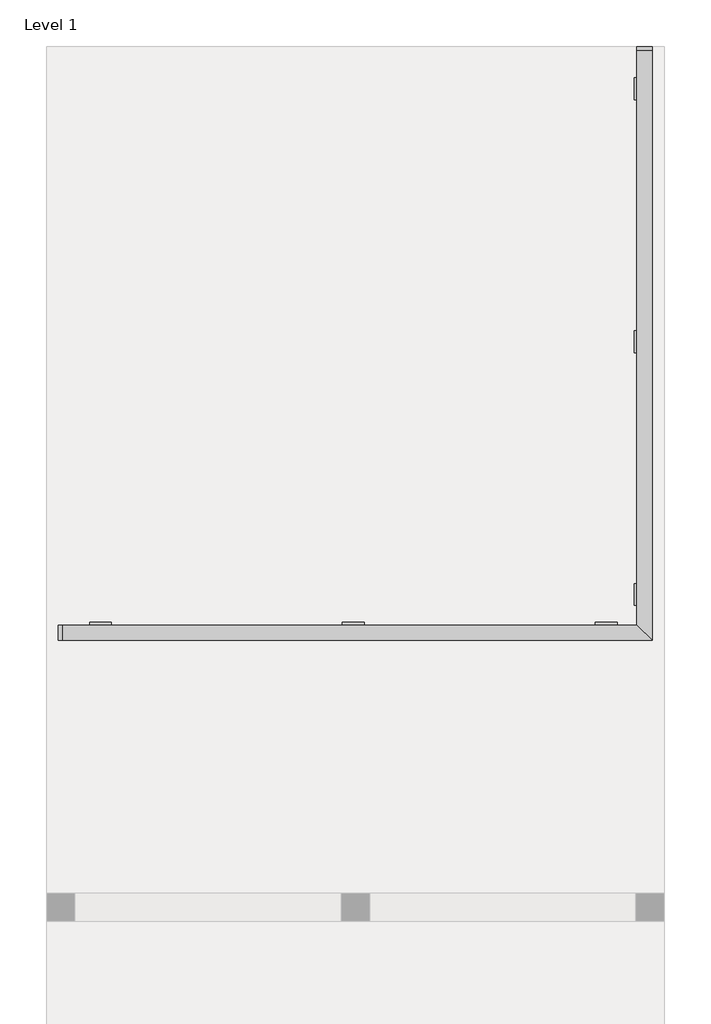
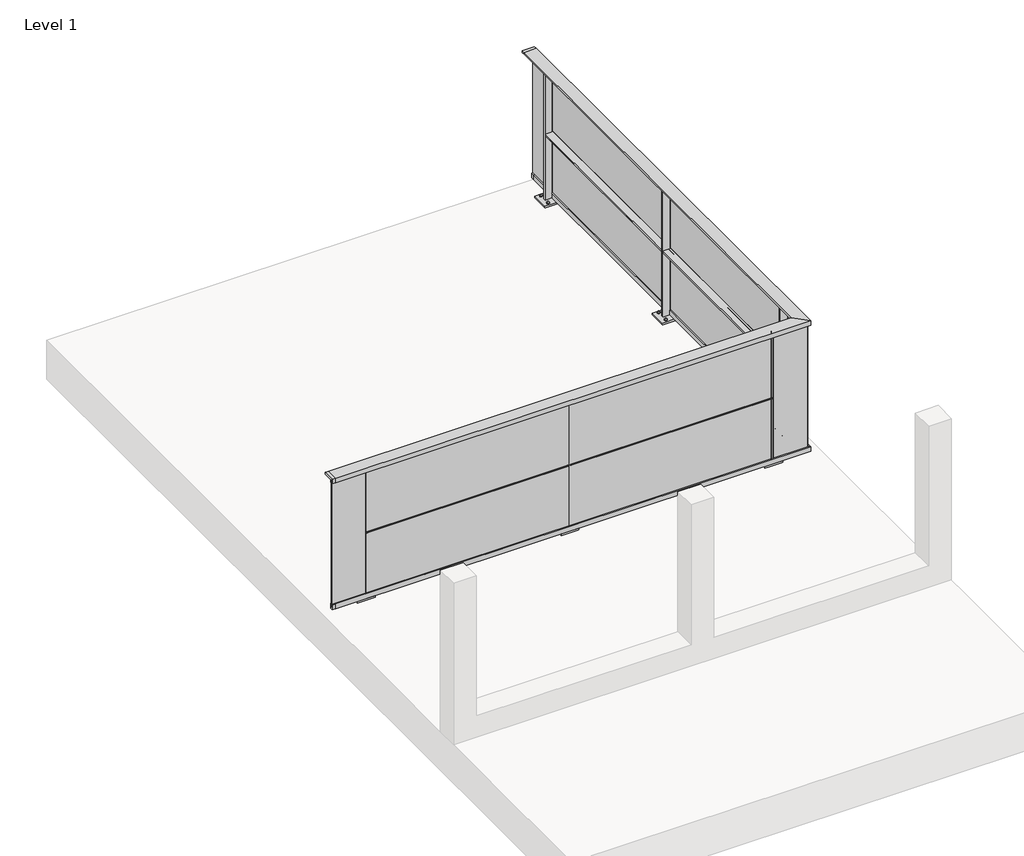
# One storey, part 2 of 2: 1 railing.
"""IFC4 building model written with IfcOpenShell, lengths in millimetres."""

from ifc_helpers import new_model, si_unit, point, frame, frame_2d, origin, origin_with_axes, place, context, project, spatial, polyline, circle_curve, ellipse_curve, trimmed, segment, composite_curve, outline, extrude, faceted_brep, element, save
from ifc_brep_helpers import plane_surface, revolved_surface, advanced_brep

model = new_model("IFC4")

# Units and contexts
model_context = context("Model", 3, world=origin())
ifc_project = project(units=[si_unit("LENGTHUNIT", "METRE", prefix="MILLI")], contexts=[model_context])

# Site, building, storey
site = spatial("IfcSite", under=ifc_project)
building = spatial("IfcBuilding", under=site)
storey = spatial("IfcBuildingStorey", under=building, Name="Level 1", Elevation=0.0)

# Railing
placement = place(None, origin())
element("IfcRailing", 1, ObjectType="Karactère Garde-Corps - Pose Sur Dalle", at=placement, inside=storey, context=model_context, shape_type="SolidModel", body=[
    faceted_brep([(-13856.6075858, 4901.5410088, 15.0), (-13856.6075858, 4921.5410088, 15.0), (-10381.0075858, 4921.5410088, 15.0), (-10361.0075858, 4901.5410088, 15.0), (-13856.6075858, 4901.5410088, 52.0), (-10361.0075858, 4901.5410088, 52.0), (-13856.6075858, 4910.0410088, 52.0), (-10369.5075858, 4910.0410088, 52.0), (-13856.6075858, 4913.0410088, 29.0), (-13856.6075858, 4910.0410088, 29.0), (-10369.5075858, 4910.0410088, 29.0), (-10372.5075858, 4913.0410088, 29.0), (-13856.6075858, 4921.5410088, 52.0), (-13856.6075858, 4913.0410088, 52.0), (-10372.5075858, 4913.0410088, 52.0), (-10381.0075858, 4921.5410088, 52.0), (-10381.0075858, 8397.1410088, 15.0), (-10361.0075858, 8397.1410088, 15.0), (-10361.0075858, 8397.1410088, 52.0), (-10369.5075858, 8397.1410088, 52.0), (-10369.5075858, 8397.1410088, 29.0), (-10372.5075858, 8397.1410088, 29.0), (-10372.5075858, 8397.1410088, 52.0), (-10381.0075858, 8397.1410088, 52.0), (-13881.6075858, 4921.5410088, 15.0), (-13881.6075858, 4901.5410088, 15.0), (-13881.6075858, 4901.5410088, 52.0), (-13881.6075858, 4910.0410088, 52.0), (-13881.6075858, 4910.0410088, 29.0), (-13881.6075858, 4913.0410088, 29.0), (-13881.6075858, 4913.0410088, 52.0), (-13881.6075858, 4921.5410088, 52.0), (-10381.0075858, 8422.1410088, 15.0), (-10381.0075858, 8422.1410088, 52.0), (-10372.5075858, 8422.1410088, 52.0), (-10372.5075858, 8422.1410088, 29.0), (-10369.5075858, 8422.1410088, 29.0), (-10369.5075858, 8422.1410088, 52.0), (-10361.0075858, 8422.1410088, 52.0), (-10361.0075858, 8422.1410088, 15.0)], [[[0, 1, 2, 3]], [[4, 0, 3, 5]], [[6, 4, 5, 7]], [[8, 9, 10, 11]], [[12, 13, 14, 15]], [[1, 12, 15, 2]], [[3, 2, 16, 17]], [[5, 3, 17, 18]], [[7, 5, 18, 19]], [[11, 10, 20, 21]], [[15, 14, 22, 23]], [[2, 15, 23, 16]], [[24, 25, 26, 27, 28, 29, 30, 31]], [[25, 24, 1, 0]], [[26, 25, 0, 4]], [[27, 26, 4, 6]], [[29, 28, 9, 8]], [[31, 30, 13, 12]], [[24, 31, 12, 1]], [[32, 33, 34, 35, 36, 37, 38, 39]], [[17, 16, 32, 39]], [[18, 17, 39, 38]], [[19, 18, 38, 37]], [[21, 20, 36, 35]], [[23, 22, 34, 33]], [[16, 23, 33, 32]], [[28, 27, 6, 9]], [[30, 29, 8, 13]], [[9, 6, 7, 10]], [[13, 8, 11, 14]], [[10, 7, 19, 20]], [[14, 11, 21, 22]], [[20, 19, 37, 36]], [[22, 21, 35, 34]]]),
    faceted_brep([(-13856.6075858, 4991.0410088, 1030.0), (-13856.6075858, 4901.0410088, 1030.0), (-10360.5075858, 4901.0410088, 1030.0), (-10450.5075858, 4991.0410088, 1030.0), (-13856.6075858, 4991.0410088, 1015.0), (-10450.5075858, 4991.0410088, 1015.0), (-13856.6075858, 4921.5410088, 1015.0), (-10381.0075858, 4921.5410088, 1015.0), (-13856.6075858, 4901.0410088, 996.0), (-10360.5075858, 4901.0410088, 996.0), (-13856.6075858, 4910.0410088, 996.0), (-10369.5075858, 4910.0410088, 996.0), (-13856.6075858, 4921.5410088, 996.0), (-10381.0075858, 4921.5410088, 996.0), (-13856.6075858, 4913.0410088, 996.0), (-10372.5075858, 4913.0410088, 996.0), (-13856.6075858, 4910.0410088, 1018.0), (-13856.6075858, 4913.0410088, 1018.0), (-10372.5075858, 4913.0410088, 1018.0), (-10369.5075858, 4910.0410088, 1018.0), (-10360.5075858, 8397.1410088, 1030.0), (-10450.5075858, 8397.1410088, 1030.0), (-10450.5075858, 8397.1410088, 1015.0), (-10381.0075858, 8397.1410088, 1015.0), (-10381.0075858, 8397.1410088, 996.0), (-10372.5075858, 8397.1410088, 996.0), (-10372.5075858, 8397.1410088, 1018.0), (-10369.5075858, 8397.1410088, 1018.0), (-10369.5075858, 8397.1410088, 996.0), (-10360.5075858, 8397.1410088, 996.0), (-13881.6075858, 4901.0410088, 1030.0), (-13881.6075858, 4991.0410088, 1030.0), (-13881.6075858, 4991.0410088, 1015.0), (-13881.6075858, 4921.5410088, 1015.0), (-13881.6075858, 4921.5410088, 996.0), (-13881.6075858, 4913.0410088, 996.0), (-13881.6075858, 4913.0410088, 1018.0), (-13881.6075858, 4910.0410088, 1018.0), (-13881.6075858, 4910.0410088, 996.0), (-13881.6075858, 4901.0410088, 996.0), (-10360.5075858, 8422.1410088, 1030.0), (-10360.5075858, 8422.1410088, 996.0), (-10369.5075858, 8422.1410088, 996.0), (-10369.5075858, 8422.1410088, 1018.0), (-10372.5075858, 8422.1410088, 1018.0), (-10372.5075858, 8422.1410088, 996.0), (-10381.0075858, 8422.1410088, 996.0), (-10381.0075858, 8422.1410088, 1015.0), (-10450.5075858, 8422.1410088, 1015.0), (-10450.5075858, 8422.1410088, 1030.0)], [[[0, 1, 2, 3]], [[4, 0, 3, 5]], [[6, 4, 5, 7]], [[1, 8, 9, 2]], [[8, 10, 11, 9]], [[12, 6, 7, 13]], [[14, 12, 13, 15]], [[16, 17, 18, 19]], [[3, 2, 20, 21]], [[5, 3, 21, 22]], [[7, 5, 22, 23]], [[13, 7, 23, 24]], [[15, 13, 24, 25]], [[19, 18, 26, 27]], [[9, 11, 28, 29]], [[2, 9, 29, 20]], [[30, 31, 32, 33, 34, 35, 36, 37, 38, 39]], [[31, 30, 1, 0]], [[32, 31, 0, 4]], [[33, 32, 4, 6]], [[34, 33, 6, 12]], [[35, 34, 12, 14]], [[37, 36, 17, 16]], [[39, 38, 10, 8]], [[30, 39, 8, 1]], [[40, 41, 42, 43, 44, 45, 46, 47, 48, 49]], [[21, 20, 40, 49]], [[22, 21, 49, 48]], [[23, 22, 48, 47]], [[24, 23, 47, 46]], [[25, 24, 46, 45]], [[27, 26, 44, 43]], [[29, 28, 42, 41]], [[20, 29, 41, 40]], [[36, 35, 14, 17]], [[38, 37, 16, 10]], [[17, 14, 15, 18]], [[10, 16, 19, 11]], [[18, 15, 25, 26]], [[11, 19, 27, 28]], [[26, 25, 45, 44]], [[28, 27, 43, 42]]]),
    extrude(outline(polyline([(-10369.4827757, 8172.1410088), (-10372.4827757, 8172.1410088), (-10372.4827757, 8422.1410088), (-10369.4827757, 8422.1410088), (-10369.4827757, 8172.1410088)])), frame((0.0, 0.0, 29.0), z_axis=(0.0, 0.0, 1.0), x_axis=(1.0, 0.0, 0.0)), (0.0, 0.0, 1.0), 967.0),
    extrude(outline(polyline([(-10369.4827757, 4922.1410088), (-10372.4827757, 4922.1410088), (-10372.4827757, 5172.1410088), (-10369.4827757, 5172.1410088), (-10369.4827757, 4922.1410088)])), frame((0.0, 0.0, 29.0), z_axis=(0.0, 0.0, 1.0), x_axis=(1.0, 0.0, 0.0)), (0.0, 0.0, 1.0), 967.0),
    advanced_brep(
    [(-10422.0163411, 8217.1410088, 20.0), (-10439.9988304, 8217.1410088, 20.0), (-10431.0075858, 8217.1410088, 20.0), (-10431.0075858, 8217.1410088, 28.9912446)],
    [
        (0, 1, circle_curve(frame((-10431.0075858, 8217.1410088, 20.0), z_axis=(0.0, 0.0, -1.0), x_axis=(-1.0, 0.0, 0.0)), 8.9912446)),
        (1, 2),
        (2, 0),
        (1, 0, circle_curve(frame((-10431.0075858, 8217.1410088, 20.0), z_axis=(0.0, 0.0, -1.0), x_axis=(-1.0, 0.0, 0.0)), 8.9912446)),
        (3, 1, circle_curve(frame((-10431.0075858, 8217.1410088, 20.0), z_axis=(0.0, -1.0, 0.0), x_axis=(1.0, 0.0, 0.0)), 8.9912446)),
        (0, 3, circle_curve(frame((-10431.0075858, 8217.1410088, 20.0), z_axis=(0.0, -1.0, 0.0), x_axis=(-1.0, 0.0, 0.0)), 8.9912446)),
    ],
    [
        plane_surface(frame((-10431.0075858, 8217.1410088, 20.0), z_axis=(0.0, 0.0, -1.0), x_axis=(-1.0, 0.0, 0.0))),
        revolved_surface(trimmed(ellipse_curve(frame((-10431.0075858, 8217.1410088, 20.0), z_axis=(0.0, 1.0, 0.0), x_axis=(1.0, 0.0, 0.0)), 8.9912446, 8.9912446), [point((-10439.9988304, 8217.1410088, 20.0))], [point((-10431.0075858, 8217.1410088, 28.9912446))], True, "CARTESIAN"), (-10431.0075858, 8217.1410088, 20.0), (0.0, 0.0, 1.0)),
    ],
    [
        (0, [[1, 2, 3]]),
        (0, [[4, -3, -2]]),
        (1, [[5, -1, 6]]),
        (1, [[-6, -4, -5]]),
    ],
),
    advanced_brep(
    [(-10431.0075858, 8127.1410088, 20.0), (-10439.9988304, 8127.1410088, 20.0), (-10422.0163411, 8127.1410088, 20.0), (-10431.0075858, 8127.1410088, 28.9912446)],
    [
        (0, 1),
        (1, 2, circle_curve(frame((-10431.0075858, 8127.1410088, 20.0), z_axis=(0.0, 0.0, -1.0), x_axis=(-1.0, 0.0, 0.0)), 8.9912446)),
        (2, 0),
        (2, 1, circle_curve(frame((-10431.0075858, 8127.1410088, 20.0), z_axis=(0.0, 0.0, -1.0), x_axis=(-1.0, 0.0, 0.0)), 8.9912446)),
        (1, 3, circle_curve(frame((-10431.0075858, 8127.1410088, 20.0), z_axis=(0.0, 1.0, 0.0), x_axis=(1.0, 0.0, 0.0)), 8.9912446)),
        (3, 2, circle_curve(frame((-10431.0075858, 8127.1410088, 20.0), z_axis=(0.0, 1.0, 0.0), x_axis=(-1.0, 0.0, 0.0)), 8.9912446)),
    ],
    [
        plane_surface(frame((-10431.0075858, 8127.1410088, 20.0), z_axis=(0.0, 0.0, -1.0), x_axis=(-1.0, 0.0, 0.0))),
        revolved_surface(trimmed(ellipse_curve(frame((-10431.0075858, 8127.1410088, 20.0), z_axis=(0.0, -1.0, 0.0), x_axis=(1.0, 0.0, 0.0)), 8.9912446, 8.9912446), [point((-10431.0075858, 8127.1410088, 28.9912446))], [point((-10439.9988304, 8127.1410088, 20.0))], True, "CARTESIAN"), (-10431.0075858, 8127.1410088, 20.0), (0.0, 0.0, -1.0)),
    ],
    [
        (0, [[1, 2, 3]]),
        (0, [[-3, 4, -1]]),
        (1, [[-2, 5, 6]]),
        (1, [[-4, -6, -5]]),
    ],
),
    extrude(outline(polyline([(-10438.1896667, 8119.9589279), (-10441.164582, 8127.1410088), (-10438.1896667, 8134.3230898), (-10431.0075858, 8137.2980051), (-10423.8255048, 8134.3230898), (-10420.8505895, 8127.1410088), (-10423.8255048, 8119.9589279), (-10431.0075858, 8116.9840126), (-10438.1896667, 8119.9589279)])), frame((0.0, 0.0, 15.0), z_axis=(0.0, 0.0, 1.0), x_axis=(1.0, 0.0, 0.0)), (0.0, 0.0, 1.0), 5.0),
    extrude(outline(polyline([(-10438.1896667, 8224.3230898), (-10431.0075858, 8227.2980051), (-10423.8255048, 8224.3230898), (-10420.8505895, 8217.1410088), (-10423.8255048, 8209.9589279), (-10431.0075858, 8206.9840126), (-10438.1896667, 8209.9589279), (-10441.164582, 8217.1410088), (-10438.1896667, 8224.3230898)])), frame((0.0, 0.0, 15.0), z_axis=(0.0, 0.0, 1.0), x_axis=(1.0, 0.0, 0.0)), (0.0, 0.0, 1.0), 5.0),
    extrude(outline(polyline([(-10361.0075858, 8237.1410088), (-10361.0075858, 8107.1410088), (-10466.0075858, 8107.1410088), (-10466.0075858, 8237.1410088), (-10361.0075858, 8237.1410088)])), origin_with_axes(), (0.0, 0.0, 1.0), 15.0),
    extrude(outline(polyline([(-10431.0075858, 8164.6410088), (-10431.0075858, 8179.6410088), (-10381.0075858, 8179.6410088), (-10381.0075858, 8164.6410088), (-10431.0075858, 8164.6410088)]), holes=[composite_curve([segment(trimmed(circle_curve(frame_2d((-10406.0075858, 8172.1410088)), 5.0234856), [point((-10400.9841001, 8172.1410088))], [point((-10411.0310714, 8172.1410088))], True, "CARTESIAN"), True, "CONTINUOUS"), segment(trimmed(circle_curve(frame_2d((-10406.0075858, 8172.1410088)), 5.0234856), [point((-10411.0310714, 8172.1410088))], [point((-10400.9841001, 8172.1410088))], True, "CARTESIAN"), True, "CONTINUOUS")], self_intersect=False)]), frame((0.0, 0.0, 15.0), z_axis=(0.0, 0.0, 1.0), x_axis=(1.0, 0.0, 0.0)), (0.0, 0.0, 1.0), 1000.0),
    extrude(outline(polyline([(-10372.4827757, 6672.1410088), (-10372.4827757, 8172.1410088), (-10369.4827757, 8172.1410088), (-10369.4827757, 6672.1410088), (-10372.4827757, 6672.1410088)])), frame((0.0, 0.0, 29.0), z_axis=(0.0, 0.0, 1.0), x_axis=(1.0, 0.0, 0.0)), (0.0, 0.0, 1.0), 989.0),
    extrude(outline(polyline([(529.5, -10372.5075858), (529.5, -10429.5075858), (514.5, -10429.5075858), (514.5, -10372.5075858), (529.5, -10372.5075858)]), holes=[polyline([(528.0, -10375.0075858), (516.0, -10375.0075858), (516.0, -10387.0075858), (528.0, -10387.0075858), (528.0, -10375.0075858)]), polyline([(528.0, -10428.0075858), (528.0, -10388.5075858), (516.0, -10388.5075858), (516.0, -10428.0075858), (528.0, -10428.0075858)])]), frame((0.0, 6679.6410088, 0.0), z_axis=(0.0, 1.0, 0.0), x_axis=(0.0, 0.0, 1.0)), (0.0, 0.0, 1.0), 1485.0),
    extrude(outline(composite_curve([segment(trimmed(circle_curve(frame_2d((514.4462257, -10365.5033461)), 4.7492839), [point((517.0, -10369.5075858))], [point((518.2420512, -10368.3577124))], True, "CARTESIAN"), True, "CONTINUOUS"), segment(trimmed(circle_curve(frame_2d((519.1606246, -10369.5966468)), 1.542315), [point((518.2420512, -10368.3577124))], [point((519.067921, -10368.0571204))], False, "CARTESIAN"), True, "CONTINUOUS"), segment(polyline([(519.067921, -10368.0571204), (524.932079, -10368.0571204)]), True, "CONTINUOUS"), segment(trimmed(circle_curve(frame_2d((524.8393754, -10369.5966468)), 1.542315), [point((524.932079, -10368.0571204))], [point((525.7579488, -10368.3577124))], False, "CARTESIAN"), True, "CONTINUOUS"), segment(trimmed(circle_curve(frame_2d((529.5537743, -10365.5033461)), 4.7492839), [point((525.7579488, -10368.3577124))], [point((527.0, -10369.5075858))], True, "CARTESIAN"), True, "CONTINUOUS"), segment(polyline([(527.0, -10369.5075858), (517.0, -10369.5075858)]), True, "CONTINUOUS")], self_intersect=False)), frame((0.0, 6679.6410088, 0.0), z_axis=(0.0, 1.0, 0.0), x_axis=(0.0, 0.0, 1.0)), (0.0, 0.0, 1.0), 1485.0),
    advanced_brep(
    [(-10422.0163411, 6717.1410088, 20.0), (-10439.9988304, 6717.1410088, 20.0), (-10431.0075858, 6717.1410088, 20.0), (-10431.0075858, 6717.1410088, 28.9912446)],
    [
        (0, 1, circle_curve(frame((-10431.0075858, 6717.1410088, 20.0), z_axis=(0.0, 0.0, -1.0), x_axis=(-1.0, 0.0, 0.0)), 8.9912446)),
        (1, 2),
        (2, 0),
        (1, 0, circle_curve(frame((-10431.0075858, 6717.1410088, 20.0), z_axis=(0.0, 0.0, -1.0), x_axis=(-1.0, 0.0, 0.0)), 8.9912446)),
        (3, 1, circle_curve(frame((-10431.0075858, 6717.1410088, 20.0), z_axis=(0.0, -1.0, 0.0), x_axis=(1.0, 0.0, 0.0)), 8.9912446)),
        (0, 3, circle_curve(frame((-10431.0075858, 6717.1410088, 20.0), z_axis=(0.0, -1.0, 0.0), x_axis=(-1.0, 0.0, 0.0)), 8.9912446)),
    ],
    [
        plane_surface(frame((-10431.0075858, 6717.1410088, 20.0), z_axis=(0.0, 0.0, -1.0), x_axis=(-1.0, 0.0, 0.0))),
        revolved_surface(trimmed(ellipse_curve(frame((-10431.0075858, 6717.1410088, 20.0), z_axis=(0.0, 1.0, 0.0), x_axis=(1.0, 0.0, 0.0)), 8.9912446, 8.9912446), [point((-10439.9988304, 6717.1410088, 20.0))], [point((-10431.0075858, 6717.1410088, 28.9912446))], True, "CARTESIAN"), (-10431.0075858, 6717.1410088, 20.0), (0.0, 0.0, 1.0)),
    ],
    [
        (0, [[1, 2, 3]]),
        (0, [[4, -3, -2]]),
        (1, [[5, -1, 6]]),
        (1, [[-6, -4, -5]]),
    ],
),
    advanced_brep(
    [(-10431.0075858, 6627.1410088, 20.0), (-10439.9988304, 6627.1410088, 20.0), (-10422.0163411, 6627.1410088, 20.0), (-10431.0075858, 6627.1410088, 28.9912446)],
    [
        (0, 1),
        (1, 2, circle_curve(frame((-10431.0075858, 6627.1410088, 20.0), z_axis=(0.0, 0.0, -1.0), x_axis=(-1.0, 0.0, 0.0)), 8.9912446)),
        (2, 0),
        (2, 1, circle_curve(frame((-10431.0075858, 6627.1410088, 20.0), z_axis=(0.0, 0.0, -1.0), x_axis=(-1.0, 0.0, 0.0)), 8.9912446)),
        (1, 3, circle_curve(frame((-10431.0075858, 6627.1410088, 20.0), z_axis=(0.0, 1.0, 0.0), x_axis=(1.0, 0.0, 0.0)), 8.9912446)),
        (3, 2, circle_curve(frame((-10431.0075858, 6627.1410088, 20.0), z_axis=(0.0, 1.0, 0.0), x_axis=(-1.0, 0.0, 0.0)), 8.9912446)),
    ],
    [
        plane_surface(frame((-10431.0075858, 6627.1410088, 20.0), z_axis=(0.0, 0.0, -1.0), x_axis=(-1.0, 0.0, 0.0))),
        revolved_surface(trimmed(ellipse_curve(frame((-10431.0075858, 6627.1410088, 20.0), z_axis=(0.0, -1.0, 0.0), x_axis=(1.0, 0.0, 0.0)), 8.9912446, 8.9912446), [point((-10431.0075858, 6627.1410088, 28.9912446))], [point((-10439.9988304, 6627.1410088, 20.0))], True, "CARTESIAN"), (-10431.0075858, 6627.1410088, 20.0), (0.0, 0.0, -1.0)),
    ],
    [
        (0, [[1, 2, 3]]),
        (0, [[-3, 4, -1]]),
        (1, [[-2, 5, 6]]),
        (1, [[-4, -6, -5]]),
    ],
),
    extrude(outline(polyline([(-10438.1896667, 6619.9589279), (-10441.164582, 6627.1410088), (-10438.1896667, 6634.3230898), (-10431.0075858, 6637.2980051), (-10423.8255048, 6634.3230898), (-10420.8505895, 6627.1410088), (-10423.8255048, 6619.9589279), (-10431.0075858, 6616.9840126), (-10438.1896667, 6619.9589279)])), frame((0.0, 0.0, 15.0), z_axis=(0.0, 0.0, 1.0), x_axis=(1.0, 0.0, 0.0)), (0.0, 0.0, 1.0), 5.0),
    extrude(outline(polyline([(-10438.1896667, 6724.3230898), (-10431.0075858, 6727.2980051), (-10423.8255048, 6724.3230898), (-10420.8505895, 6717.1410088), (-10423.8255048, 6709.9589279), (-10431.0075858, 6706.9840126), (-10438.1896667, 6709.9589279), (-10441.164582, 6717.1410088), (-10438.1896667, 6724.3230898)])), frame((0.0, 0.0, 15.0), z_axis=(0.0, 0.0, 1.0), x_axis=(1.0, 0.0, 0.0)), (0.0, 0.0, 1.0), 5.0),
    extrude(outline(polyline([(-10361.0075858, 6737.1410088), (-10361.0075858, 6607.1410088), (-10466.0075858, 6607.1410088), (-10466.0075858, 6737.1410088), (-10361.0075858, 6737.1410088)])), origin_with_axes(), (0.0, 0.0, 1.0), 15.0),
    extrude(outline(polyline([(-10431.0075858, 6664.6410088), (-10431.0075858, 6679.6410088), (-10381.0075858, 6679.6410088), (-10381.0075858, 6664.6410088), (-10431.0075858, 6664.6410088)]), holes=[composite_curve([segment(trimmed(circle_curve(frame_2d((-10406.0075858, 6672.1410088)), 5.0234856), [point((-10400.9841001, 6672.1410088))], [point((-10411.0310714, 6672.1410088))], True, "CARTESIAN"), True, "CONTINUOUS"), segment(trimmed(circle_curve(frame_2d((-10406.0075858, 6672.1410088)), 5.0234856), [point((-10411.0310714, 6672.1410088))], [point((-10400.9841001, 6672.1410088))], True, "CARTESIAN"), True, "CONTINUOUS")], self_intersect=False)]), frame((0.0, 0.0, 15.0), z_axis=(0.0, 0.0, 1.0), x_axis=(1.0, 0.0, 0.0)), (0.0, 0.0, 1.0), 1000.0),
    extrude(outline(polyline([(-10372.4827757, 5172.1410088), (-10372.4827757, 6672.1410088), (-10369.4827757, 6672.1410088), (-10369.4827757, 5172.1410088), (-10372.4827757, 5172.1410088)])), frame((0.0, 0.0, 29.0), z_axis=(0.0, 0.0, 1.0), x_axis=(1.0, 0.0, 0.0)), (0.0, 0.0, 1.0), 989.0),
    extrude(outline(polyline([(529.5, -10372.5075858), (529.5, -10429.5075858), (514.5, -10429.5075858), (514.5, -10372.5075858), (529.5, -10372.5075858)]), holes=[polyline([(528.0, -10375.0075858), (516.0, -10375.0075858), (516.0, -10387.0075858), (528.0, -10387.0075858), (528.0, -10375.0075858)]), polyline([(528.0, -10428.0075858), (528.0, -10388.5075858), (516.0, -10388.5075858), (516.0, -10428.0075858), (528.0, -10428.0075858)])]), frame((0.0, 5179.6410088, 0.0), z_axis=(0.0, 1.0, 0.0), x_axis=(0.0, 0.0, 1.0)), (0.0, 0.0, 1.0), 1485.0),
    extrude(outline(composite_curve([segment(trimmed(circle_curve(frame_2d((514.4462257, -10365.5033461)), 4.7492839), [point((517.0, -10369.5075858))], [point((518.2420512, -10368.3577124))], True, "CARTESIAN"), True, "CONTINUOUS"), segment(trimmed(circle_curve(frame_2d((519.1606246, -10369.5966468)), 1.542315), [point((518.2420512, -10368.3577124))], [point((519.067921, -10368.0571204))], False, "CARTESIAN"), True, "CONTINUOUS"), segment(polyline([(519.067921, -10368.0571204), (524.932079, -10368.0571204)]), True, "CONTINUOUS"), segment(trimmed(circle_curve(frame_2d((524.8393754, -10369.5966468)), 1.542315), [point((524.932079, -10368.0571204))], [point((525.7579488, -10368.3577124))], False, "CARTESIAN"), True, "CONTINUOUS"), segment(trimmed(circle_curve(frame_2d((529.5537743, -10365.5033461)), 4.7492839), [point((525.7579488, -10368.3577124))], [point((527.0, -10369.5075858))], True, "CARTESIAN"), True, "CONTINUOUS"), segment(polyline([(527.0, -10369.5075858), (517.0, -10369.5075858)]), True, "CONTINUOUS")], self_intersect=False)), frame((0.0, 5179.6410088, 0.0), z_axis=(0.0, 1.0, 0.0), x_axis=(0.0, 0.0, 1.0)), (0.0, 0.0, 1.0), 1485.0),
    advanced_brep(
    [(-10422.0163411, 5217.1410088, 20.0), (-10439.9988304, 5217.1410088, 20.0), (-10431.0075858, 5217.1410088, 20.0), (-10431.0075858, 5217.1410088, 28.9912446)],
    [
        (0, 1, circle_curve(frame((-10431.0075858, 5217.1410088, 20.0), z_axis=(0.0, 0.0, -1.0), x_axis=(-1.0, 0.0, 0.0)), 8.9912446)),
        (1, 2),
        (2, 0),
        (1, 0, circle_curve(frame((-10431.0075858, 5217.1410088, 20.0), z_axis=(0.0, 0.0, -1.0), x_axis=(-1.0, 0.0, 0.0)), 8.9912446)),
        (3, 1, circle_curve(frame((-10431.0075858, 5217.1410088, 20.0), z_axis=(0.0, -1.0, 0.0), x_axis=(1.0, 0.0, 0.0)), 8.9912446)),
        (0, 3, circle_curve(frame((-10431.0075858, 5217.1410088, 20.0), z_axis=(0.0, -1.0, 0.0), x_axis=(-1.0, 0.0, 0.0)), 8.9912446)),
    ],
    [
        plane_surface(frame((-10431.0075858, 5217.1410088, 20.0), z_axis=(0.0, 0.0, -1.0), x_axis=(-1.0, 0.0, 0.0))),
        revolved_surface(trimmed(ellipse_curve(frame((-10431.0075858, 5217.1410088, 20.0), z_axis=(0.0, 1.0, 0.0), x_axis=(1.0, 0.0, 0.0)), 8.9912446, 8.9912446), [point((-10439.9988304, 5217.1410088, 20.0))], [point((-10431.0075858, 5217.1410088, 28.9912446))], True, "CARTESIAN"), (-10431.0075858, 5217.1410088, 20.0), (0.0, 0.0, 1.0)),
    ],
    [
        (0, [[1, 2, 3]]),
        (0, [[4, -3, -2]]),
        (1, [[5, -1, 6]]),
        (1, [[-6, -4, -5]]),
    ],
),
    advanced_brep(
    [(-10431.0075858, 5127.1410088, 20.0), (-10439.9988304, 5127.1410088, 20.0), (-10422.0163411, 5127.1410088, 20.0), (-10431.0075858, 5127.1410088, 28.9912446)],
    [
        (0, 1),
        (1, 2, circle_curve(frame((-10431.0075858, 5127.1410088, 20.0), z_axis=(0.0, 0.0, -1.0), x_axis=(-1.0, 0.0, 0.0)), 8.9912446)),
        (2, 0),
        (2, 1, circle_curve(frame((-10431.0075858, 5127.1410088, 20.0), z_axis=(0.0, 0.0, -1.0), x_axis=(-1.0, 0.0, 0.0)), 8.9912446)),
        (1, 3, circle_curve(frame((-10431.0075858, 5127.1410088, 20.0), z_axis=(0.0, 1.0, 0.0), x_axis=(1.0, 0.0, 0.0)), 8.9912446)),
        (3, 2, circle_curve(frame((-10431.0075858, 5127.1410088, 20.0), z_axis=(0.0, 1.0, 0.0), x_axis=(-1.0, 0.0, 0.0)), 8.9912446)),
    ],
    [
        plane_surface(frame((-10431.0075858, 5127.1410088, 20.0), z_axis=(0.0, 0.0, -1.0), x_axis=(-1.0, 0.0, 0.0))),
        revolved_surface(trimmed(ellipse_curve(frame((-10431.0075858, 5127.1410088, 20.0), z_axis=(0.0, -1.0, 0.0), x_axis=(1.0, 0.0, 0.0)), 8.9912446, 8.9912446), [point((-10431.0075858, 5127.1410088, 28.9912446))], [point((-10439.9988304, 5127.1410088, 20.0))], True, "CARTESIAN"), (-10431.0075858, 5127.1410088, 20.0), (0.0, 0.0, -1.0)),
    ],
    [
        (0, [[1, 2, 3]]),
        (0, [[-3, 4, -1]]),
        (1, [[-2, 5, 6]]),
        (1, [[-4, -6, -5]]),
    ],
),
    extrude(outline(polyline([(-10438.1896667, 5119.9589279), (-10441.164582, 5127.1410088), (-10438.1896667, 5134.3230898), (-10431.0075858, 5137.2980051), (-10423.8255048, 5134.3230898), (-10420.8505895, 5127.1410088), (-10423.8255048, 5119.9589279), (-10431.0075858, 5116.9840126), (-10438.1896667, 5119.9589279)])), frame((0.0, 0.0, 15.0), z_axis=(0.0, 0.0, 1.0), x_axis=(1.0, 0.0, 0.0)), (0.0, 0.0, 1.0), 5.0),
    extrude(outline(polyline([(-10438.1896667, 5224.3230898), (-10431.0075858, 5227.2980051), (-10423.8255048, 5224.3230898), (-10420.8505895, 5217.1410088), (-10423.8255048, 5209.9589279), (-10431.0075858, 5206.9840126), (-10438.1896667, 5209.9589279), (-10441.164582, 5217.1410088), (-10438.1896667, 5224.3230898)])), frame((0.0, 0.0, 15.0), z_axis=(0.0, 0.0, 1.0), x_axis=(1.0, 0.0, 0.0)), (0.0, 0.0, 1.0), 5.0),
    extrude(outline(polyline([(-10361.0075858, 5237.1410088), (-10361.0075858, 5107.1410088), (-10466.0075858, 5107.1410088), (-10466.0075858, 5237.1410088), (-10361.0075858, 5237.1410088)])), origin_with_axes(), (0.0, 0.0, 1.0), 15.0),
    extrude(outline(polyline([(-10431.0075858, 5164.6410088), (-10431.0075858, 5179.6410088), (-10381.0075858, 5179.6410088), (-10381.0075858, 5164.6410088), (-10431.0075858, 5164.6410088)]), holes=[composite_curve([segment(trimmed(circle_curve(frame_2d((-10406.0075858, 5172.1410088)), 5.0234856), [point((-10400.9841001, 5172.1410088))], [point((-10411.0310714, 5172.1410088))], True, "CARTESIAN"), True, "CONTINUOUS"), segment(trimmed(circle_curve(frame_2d((-10406.0075858, 5172.1410088)), 5.0234856), [point((-10411.0310714, 5172.1410088))], [point((-10400.9841001, 5172.1410088))], True, "CARTESIAN"), True, "CONTINUOUS")], self_intersect=False)]), frame((0.0, 0.0, 15.0), z_axis=(0.0, 0.0, 1.0), x_axis=(1.0, 0.0, 0.0)), (0.0, 0.0, 1.0), 1000.0),
    extrude(outline(polyline([(-10631.6075858, 4910.0161987), (-10631.6075858, 4913.0161987), (-10381.6075858, 4913.0161987), (-10381.6075858, 4910.0161987), (-10631.6075858, 4910.0161987)])), frame((0.0, 0.0, 29.0), z_axis=(0.0, 0.0, 1.0), x_axis=(1.0, 0.0, 0.0)), (0.0, 0.0, 1.0), 967.0),
    extrude(outline(polyline([(-13881.6075858, 4910.0161987), (-13881.6075858, 4913.0161987), (-13631.6075858, 4913.0161987), (-13631.6075858, 4910.0161987), (-13881.6075858, 4910.0161987)])), frame((0.0, 0.0, 29.0), z_axis=(0.0, 0.0, 1.0), x_axis=(1.0, 0.0, 0.0)), (0.0, 0.0, 1.0), 967.0),
    advanced_brep(
    [(-10586.6075858, 4962.5497642, 20.0), (-10586.6075858, 4980.5322535, 20.0), (-10586.6075858, 4971.5410088, 20.0), (-10586.6075858, 4971.5410088, 28.9912446)],
    [
        (0, 1, circle_curve(frame((-10586.6075858, 4971.5410088, 20.0), z_axis=(0.0, 0.0, -1.0), x_axis=(0.0, 1.0, 0.0)), 8.9912446)),
        (1, 2),
        (2, 0),
        (1, 0, circle_curve(frame((-10586.6075858, 4971.5410088, 20.0), z_axis=(0.0, 0.0, -1.0), x_axis=(0.0, 1.0, 0.0)), 8.9912446)),
        (3, 1, circle_curve(frame((-10586.6075858, 4971.5410088, 20.0), z_axis=(-1.0, 0.0, 0.0), x_axis=(0.0, -1.0, 0.0)), 8.9912446)),
        (0, 3, circle_curve(frame((-10586.6075858, 4971.5410088, 20.0), z_axis=(-1.0, 0.0, 0.0), x_axis=(0.0, 1.0, 0.0)), 8.9912446)),
    ],
    [
        plane_surface(frame((-10586.6075858, 4971.5410088, 20.0), z_axis=(0.0, 0.0, -1.0), x_axis=(0.0, 1.0, 0.0))),
        revolved_surface(trimmed(ellipse_curve(frame((-10586.6075858, 4971.5410088, 20.0), z_axis=(1.0, 0.0, 0.0), x_axis=(0.0, -1.0, 0.0)), 8.9912446, 8.9912446), [point((-10586.6075858, 4980.5322535, 20.0))], [point((-10586.6075858, 4971.5410088, 28.9912446))], True, "CARTESIAN"), (-10586.6075858, 4971.5410088, 20.0), (0.0, 0.0, 1.0)),
    ],
    [
        (0, [[1, 2, 3]]),
        (0, [[4, -3, -2]]),
        (1, [[5, -1, 6]]),
        (1, [[-6, -4, -5]]),
    ],
),
    advanced_brep(
    [(-10676.6075858, 4971.5410088, 20.0), (-10676.6075858, 4980.5322535, 20.0), (-10676.6075858, 4962.5497642, 20.0), (-10676.6075858, 4971.5410088, 28.9912446)],
    [
        (0, 1),
        (1, 2, circle_curve(frame((-10676.6075858, 4971.5410088, 20.0), z_axis=(0.0, 0.0, -1.0), x_axis=(0.0, 1.0, 0.0)), 8.9912446)),
        (2, 0),
        (2, 1, circle_curve(frame((-10676.6075858, 4971.5410088, 20.0), z_axis=(0.0, 0.0, -1.0), x_axis=(0.0, 1.0, 0.0)), 8.9912446)),
        (1, 3, circle_curve(frame((-10676.6075858, 4971.5410088, 20.0), z_axis=(1.0, 0.0, 0.0), x_axis=(0.0, -1.0, 0.0)), 8.9912446)),
        (3, 2, circle_curve(frame((-10676.6075858, 4971.5410088, 20.0), z_axis=(1.0, 0.0, 0.0), x_axis=(0.0, 1.0, 0.0)), 8.9912446)),
    ],
    [
        plane_surface(frame((-10676.6075858, 4971.5410088, 20.0), z_axis=(0.0, 0.0, -1.0), x_axis=(0.0, 1.0, 0.0))),
        revolved_surface(trimmed(ellipse_curve(frame((-10676.6075858, 4971.5410088, 20.0), z_axis=(-1.0, 0.0, 0.0), x_axis=(0.0, -1.0, 0.0)), 8.9912446, 8.9912446), [point((-10676.6075858, 4971.5410088, 28.9912446))], [point((-10676.6075858, 4980.5322535, 20.0))], True, "CARTESIAN"), (-10676.6075858, 4971.5410088, 20.0), (0.0, 0.0, -1.0)),
    ],
    [
        (0, [[1, 2, 3]]),
        (0, [[-3, 4, -1]]),
        (1, [[-2, 5, 6]]),
        (1, [[-4, -6, -5]]),
    ],
),
    extrude(outline(polyline([(-10683.7896667, 4978.7230898), (-10676.6075858, 4981.6980051), (-10669.4255048, 4978.7230898), (-10666.4505895, 4971.5410088), (-10669.4255048, 4964.3589279), (-10676.6075858, 4961.3840126), (-10683.7896667, 4964.3589279), (-10686.764582, 4971.5410088), (-10683.7896667, 4978.7230898)])), frame((0.0, 0.0, 15.0), z_axis=(0.0, 0.0, 1.0), x_axis=(1.0, 0.0, 0.0)), (0.0, 0.0, 1.0), 5.0),
    extrude(outline(polyline([(-10579.4255048, 4978.7230898), (-10576.4505895, 4971.5410088), (-10579.4255048, 4964.3589279), (-10586.6075858, 4961.3840126), (-10593.7896667, 4964.3589279), (-10596.764582, 4971.5410088), (-10593.7896667, 4978.7230898), (-10586.6075858, 4981.6980051), (-10579.4255048, 4978.7230898)])), frame((0.0, 0.0, 15.0), z_axis=(0.0, 0.0, 1.0), x_axis=(1.0, 0.0, 0.0)), (0.0, 0.0, 1.0), 5.0),
    extrude(outline(polyline([(-10566.6075858, 4901.5410088), (-10696.6075858, 4901.5410088), (-10696.6075858, 5006.5410088), (-10566.6075858, 5006.5410088), (-10566.6075858, 4901.5410088)])), origin_with_axes(), (0.0, 0.0, 1.0), 15.0),
    extrude(outline(polyline([(-10639.1075858, 4971.5410088), (-10624.1075858, 4971.5410088), (-10624.1075858, 4921.5410088), (-10639.1075858, 4921.5410088), (-10639.1075858, 4971.5410088)]), holes=[composite_curve([segment(trimmed(circle_curve(frame_2d((-10631.6075858, 4946.5410088)), 5.0234856), [point((-10631.6075858, 4941.5175232))], [point((-10631.6075858, 4951.5644944))], True, "CARTESIAN"), True, "CONTINUOUS"), segment(trimmed(circle_curve(frame_2d((-10631.6075858, 4946.5410088)), 5.0234856), [point((-10631.6075858, 4951.5644944))], [point((-10631.6075858, 4941.5175232))], True, "CARTESIAN"), True, "CONTINUOUS")], self_intersect=False)]), frame((0.0, 0.0, 15.0), z_axis=(0.0, 0.0, 1.0), x_axis=(1.0, 0.0, 0.0)), (0.0, 0.0, 1.0), 1000.0),
    extrude(outline(polyline([(-12131.6075858, 4913.0161987), (-10631.6075858, 4913.0161987), (-10631.6075858, 4910.0161987), (-12131.6075858, 4910.0161987), (-12131.6075858, 4913.0161987)])), frame((0.0, 0.0, 29.0), z_axis=(0.0, 0.0, 1.0), x_axis=(1.0, 0.0, 0.0)), (0.0, 0.0, 1.0), 989.0),
    extrude(outline(polyline([(4913.0410088, 529.5), (4970.0410088, 529.5), (4970.0410088, 514.5), (4913.0410088, 514.5), (4913.0410088, 529.5)]), holes=[polyline([(4915.5410088, 528.0), (4915.5410088, 516.0), (4927.5410088, 516.0), (4927.5410088, 528.0), (4915.5410088, 528.0)]), polyline([(4968.5410088, 528.0), (4929.0410088, 528.0), (4929.0410088, 516.0), (4968.5410088, 516.0), (4968.5410088, 528.0)])]), frame((-12124.1075858, 0.0, 0.0), z_axis=(1.0, 0.0, 0.0), x_axis=(0.0, 1.0, 0.0)), (0.0, 0.0, 1.0), 1485.0),
    extrude(outline(composite_curve([segment(trimmed(circle_curve(frame_2d((4906.0367692, 514.4462257)), 4.7492839), [point((4910.0410088, 517.0))], [point((4908.8911355, 518.2420512))], True, "CARTESIAN"), True, "CONTINUOUS"), segment(trimmed(circle_curve(frame_2d((4910.1300699, 519.1606246)), 1.542315), [point((4908.8911355, 518.2420512))], [point((4908.5905435, 519.067921))], False, "CARTESIAN"), True, "CONTINUOUS"), segment(polyline([(4908.5905435, 519.067921), (4908.5905435, 524.932079)]), True, "CONTINUOUS"), segment(trimmed(circle_curve(frame_2d((4910.1300699, 524.8393754)), 1.542315), [point((4908.5905435, 524.932079))], [point((4908.8911355, 525.7579488))], False, "CARTESIAN"), True, "CONTINUOUS"), segment(trimmed(circle_curve(frame_2d((4906.0367692, 529.5537743)), 4.7492839), [point((4908.8911355, 525.7579488))], [point((4910.0410088, 527.0))], True, "CARTESIAN"), True, "CONTINUOUS"), segment(polyline([(4910.0410088, 527.0), (4910.0410088, 517.0)]), True, "CONTINUOUS")], self_intersect=False)), frame((-12124.1075858, 0.0, 0.0), z_axis=(1.0, 0.0, 0.0), x_axis=(0.0, 1.0, 0.0)), (0.0, 0.0, 1.0), 1485.0),
    advanced_brep(
    [(-12086.6075858, 4962.5497642, 20.0), (-12086.6075858, 4980.5322535, 20.0), (-12086.6075858, 4971.5410088, 20.0), (-12086.6075858, 4971.5410088, 28.9912446)],
    [
        (0, 1, circle_curve(frame((-12086.6075858, 4971.5410088, 20.0), z_axis=(0.0, 0.0, -1.0), x_axis=(0.0, 1.0, 0.0)), 8.9912446)),
        (1, 2),
        (2, 0),
        (1, 0, circle_curve(frame((-12086.6075858, 4971.5410088, 20.0), z_axis=(0.0, 0.0, -1.0), x_axis=(0.0, 1.0, 0.0)), 8.9912446)),
        (3, 1, circle_curve(frame((-12086.6075858, 4971.5410088, 20.0), z_axis=(-1.0, 0.0, 0.0), x_axis=(0.0, -1.0, 0.0)), 8.9912446)),
        (0, 3, circle_curve(frame((-12086.6075858, 4971.5410088, 20.0), z_axis=(-1.0, 0.0, 0.0), x_axis=(0.0, 1.0, 0.0)), 8.9912446)),
    ],
    [
        plane_surface(frame((-12086.6075858, 4971.5410088, 20.0), z_axis=(0.0, 0.0, -1.0), x_axis=(0.0, 1.0, 0.0))),
        revolved_surface(trimmed(ellipse_curve(frame((-12086.6075858, 4971.5410088, 20.0), z_axis=(1.0, 0.0, 0.0), x_axis=(0.0, -1.0, 0.0)), 8.9912446, 8.9912446), [point((-12086.6075858, 4980.5322535, 20.0))], [point((-12086.6075858, 4971.5410088, 28.9912446))], True, "CARTESIAN"), (-12086.6075858, 4971.5410088, 20.0), (0.0, 0.0, 1.0)),
    ],
    [
        (0, [[1, 2, 3]]),
        (0, [[4, -3, -2]]),
        (1, [[5, -1, 6]]),
        (1, [[-6, -4, -5]]),
    ],
),
    advanced_brep(
    [(-12176.6075858, 4971.5410088, 20.0), (-12176.6075858, 4980.5322535, 20.0), (-12176.6075858, 4962.5497642, 20.0), (-12176.6075858, 4971.5410088, 28.9912446)],
    [
        (0, 1),
        (1, 2, circle_curve(frame((-12176.6075858, 4971.5410088, 20.0), z_axis=(0.0, 0.0, -1.0), x_axis=(0.0, 1.0, 0.0)), 8.9912446)),
        (2, 0),
        (2, 1, circle_curve(frame((-12176.6075858, 4971.5410088, 20.0), z_axis=(0.0, 0.0, -1.0), x_axis=(0.0, 1.0, 0.0)), 8.9912446)),
        (1, 3, circle_curve(frame((-12176.6075858, 4971.5410088, 20.0), z_axis=(1.0, 0.0, 0.0), x_axis=(0.0, -1.0, 0.0)), 8.9912446)),
        (3, 2, circle_curve(frame((-12176.6075858, 4971.5410088, 20.0), z_axis=(1.0, 0.0, 0.0), x_axis=(0.0, 1.0, 0.0)), 8.9912446)),
    ],
    [
        plane_surface(frame((-12176.6075858, 4971.5410088, 20.0), z_axis=(0.0, 0.0, -1.0), x_axis=(0.0, 1.0, 0.0))),
        revolved_surface(trimmed(ellipse_curve(frame((-12176.6075858, 4971.5410088, 20.0), z_axis=(-1.0, 0.0, 0.0), x_axis=(0.0, -1.0, 0.0)), 8.9912446, 8.9912446), [point((-12176.6075858, 4971.5410088, 28.9912446))], [point((-12176.6075858, 4980.5322535, 20.0))], True, "CARTESIAN"), (-12176.6075858, 4971.5410088, 20.0), (0.0, 0.0, -1.0)),
    ],
    [
        (0, [[1, 2, 3]]),
        (0, [[-3, 4, -1]]),
        (1, [[-2, 5, 6]]),
        (1, [[-4, -6, -5]]),
    ],
),
    extrude(outline(polyline([(-12183.7896667, 4978.7230898), (-12176.6075858, 4981.6980051), (-12169.4255048, 4978.7230898), (-12166.4505895, 4971.5410088), (-12169.4255048, 4964.3589279), (-12176.6075858, 4961.3840126), (-12183.7896667, 4964.3589279), (-12186.764582, 4971.5410088), (-12183.7896667, 4978.7230898)])), frame((0.0, 0.0, 15.0), z_axis=(0.0, 0.0, 1.0), x_axis=(1.0, 0.0, 0.0)), (0.0, 0.0, 1.0), 5.0),
    extrude(outline(polyline([(-12079.4255048, 4978.7230898), (-12076.4505895, 4971.5410088), (-12079.4255048, 4964.3589279), (-12086.6075858, 4961.3840126), (-12093.7896667, 4964.3589279), (-12096.764582, 4971.5410088), (-12093.7896667, 4978.7230898), (-12086.6075858, 4981.6980051), (-12079.4255048, 4978.7230898)])), frame((0.0, 0.0, 15.0), z_axis=(0.0, 0.0, 1.0), x_axis=(1.0, 0.0, 0.0)), (0.0, 0.0, 1.0), 5.0),
    extrude(outline(polyline([(-12066.6075858, 4901.5410088), (-12196.6075858, 4901.5410088), (-12196.6075858, 5006.5410088), (-12066.6075858, 5006.5410088), (-12066.6075858, 4901.5410088)])), origin_with_axes(), (0.0, 0.0, 1.0), 15.0),
    extrude(outline(polyline([(-12139.1075858, 4971.5410088), (-12124.1075858, 4971.5410088), (-12124.1075858, 4921.5410088), (-12139.1075858, 4921.5410088), (-12139.1075858, 4971.5410088)]), holes=[composite_curve([segment(trimmed(circle_curve(frame_2d((-12131.6075858, 4946.5410088)), 5.0234856), [point((-12131.6075858, 4941.5175232))], [point((-12131.6075858, 4951.5644944))], True, "CARTESIAN"), True, "CONTINUOUS"), segment(trimmed(circle_curve(frame_2d((-12131.6075858, 4946.5410088)), 5.0234856), [point((-12131.6075858, 4951.5644944))], [point((-12131.6075858, 4941.5175232))], True, "CARTESIAN"), True, "CONTINUOUS")], self_intersect=False)]), frame((0.0, 0.0, 15.0), z_axis=(0.0, 0.0, 1.0), x_axis=(1.0, 0.0, 0.0)), (0.0, 0.0, 1.0), 1000.0),
    extrude(outline(polyline([(-13631.6075858, 4913.0161987), (-12131.6075858, 4913.0161987), (-12131.6075858, 4910.0161987), (-13631.6075858, 4910.0161987), (-13631.6075858, 4913.0161987)])), frame((0.0, 0.0, 29.0), z_axis=(0.0, 0.0, 1.0), x_axis=(1.0, 0.0, 0.0)), (0.0, 0.0, 1.0), 989.0),
    extrude(outline(polyline([(4913.0410088, 529.5), (4970.0410088, 529.5), (4970.0410088, 514.5), (4913.0410088, 514.5), (4913.0410088, 529.5)]), holes=[polyline([(4915.5410088, 528.0), (4915.5410088, 516.0), (4927.5410088, 516.0), (4927.5410088, 528.0), (4915.5410088, 528.0)]), polyline([(4968.5410088, 528.0), (4929.0410088, 528.0), (4929.0410088, 516.0), (4968.5410088, 516.0), (4968.5410088, 528.0)])]), frame((-13624.1075858, 0.0, 0.0), z_axis=(1.0, 0.0, 0.0), x_axis=(0.0, 1.0, 0.0)), (0.0, 0.0, 1.0), 1485.0),
    extrude(outline(composite_curve([segment(trimmed(circle_curve(frame_2d((4906.0367692, 514.4462257)), 4.7492839), [point((4910.0410088, 517.0))], [point((4908.8911355, 518.2420512))], True, "CARTESIAN"), True, "CONTINUOUS"), segment(trimmed(circle_curve(frame_2d((4910.1300699, 519.1606246)), 1.542315), [point((4908.8911355, 518.2420512))], [point((4908.5905435, 519.067921))], False, "CARTESIAN"), True, "CONTINUOUS"), segment(polyline([(4908.5905435, 519.067921), (4908.5905435, 524.932079)]), True, "CONTINUOUS"), segment(trimmed(circle_curve(frame_2d((4910.1300699, 524.8393754)), 1.542315), [point((4908.5905435, 524.932079))], [point((4908.8911355, 525.7579488))], False, "CARTESIAN"), True, "CONTINUOUS"), segment(trimmed(circle_curve(frame_2d((4906.0367692, 529.5537743)), 4.7492839), [point((4908.8911355, 525.7579488))], [point((4910.0410088, 527.0))], True, "CARTESIAN"), True, "CONTINUOUS"), segment(polyline([(4910.0410088, 527.0), (4910.0410088, 517.0)]), True, "CONTINUOUS")], self_intersect=False)), frame((-13624.1075858, 0.0, 0.0), z_axis=(1.0, 0.0, 0.0), x_axis=(0.0, 1.0, 0.0)), (0.0, 0.0, 1.0), 1485.0),
    advanced_brep(
    [(-13586.6075858, 4962.5497642, 20.0), (-13586.6075858, 4980.5322535, 20.0), (-13586.6075858, 4971.5410088, 20.0), (-13586.6075858, 4971.5410088, 28.9912446)],
    [
        (0, 1, circle_curve(frame((-13586.6075858, 4971.5410088, 20.0), z_axis=(0.0, 0.0, -1.0), x_axis=(0.0, 1.0, 0.0)), 8.9912446)),
        (1, 2),
        (2, 0),
        (1, 0, circle_curve(frame((-13586.6075858, 4971.5410088, 20.0), z_axis=(0.0, 0.0, -1.0), x_axis=(0.0, 1.0, 0.0)), 8.9912446)),
        (3, 1, circle_curve(frame((-13586.6075858, 4971.5410088, 20.0), z_axis=(-1.0, 0.0, 0.0), x_axis=(0.0, -1.0, 0.0)), 8.9912446)),
        (0, 3, circle_curve(frame((-13586.6075858, 4971.5410088, 20.0), z_axis=(-1.0, 0.0, 0.0), x_axis=(0.0, 1.0, 0.0)), 8.9912446)),
    ],
    [
        plane_surface(frame((-13586.6075858, 4971.5410088, 20.0), z_axis=(0.0, 0.0, -1.0), x_axis=(0.0, 1.0, 0.0))),
        revolved_surface(trimmed(ellipse_curve(frame((-13586.6075858, 4971.5410088, 20.0), z_axis=(1.0, 0.0, 0.0), x_axis=(0.0, -1.0, 0.0)), 8.9912446, 8.9912446), [point((-13586.6075858, 4980.5322535, 20.0))], [point((-13586.6075858, 4971.5410088, 28.9912446))], True, "CARTESIAN"), (-13586.6075858, 4971.5410088, 20.0), (0.0, 0.0, 1.0)),
    ],
    [
        (0, [[1, 2, 3]]),
        (0, [[4, -3, -2]]),
        (1, [[5, -1, 6]]),
        (1, [[-6, -4, -5]]),
    ],
),
    advanced_brep(
    [(-13676.6075858, 4971.5410088, 20.0), (-13676.6075858, 4980.5322535, 20.0), (-13676.6075858, 4962.5497642, 20.0), (-13676.6075858, 4971.5410088, 28.9912446)],
    [
        (0, 1),
        (1, 2, circle_curve(frame((-13676.6075858, 4971.5410088, 20.0), z_axis=(0.0, 0.0, -1.0), x_axis=(0.0, 1.0, 0.0)), 8.9912446)),
        (2, 0),
        (2, 1, circle_curve(frame((-13676.6075858, 4971.5410088, 20.0), z_axis=(0.0, 0.0, -1.0), x_axis=(0.0, 1.0, 0.0)), 8.9912446)),
        (1, 3, circle_curve(frame((-13676.6075858, 4971.5410088, 20.0), z_axis=(1.0, 0.0, 0.0), x_axis=(0.0, -1.0, 0.0)), 8.9912446)),
        (3, 2, circle_curve(frame((-13676.6075858, 4971.5410088, 20.0), z_axis=(1.0, 0.0, 0.0), x_axis=(0.0, 1.0, 0.0)), 8.9912446)),
    ],
    [
        plane_surface(frame((-13676.6075858, 4971.5410088, 20.0), z_axis=(0.0, 0.0, -1.0), x_axis=(0.0, 1.0, 0.0))),
        revolved_surface(trimmed(ellipse_curve(frame((-13676.6075858, 4971.5410088, 20.0), z_axis=(-1.0, 0.0, 0.0), x_axis=(0.0, -1.0, 0.0)), 8.9912446, 8.9912446), [point((-13676.6075858, 4971.5410088, 28.9912446))], [point((-13676.6075858, 4980.5322535, 20.0))], True, "CARTESIAN"), (-13676.6075858, 4971.5410088, 20.0), (0.0, 0.0, -1.0)),
    ],
    [
        (0, [[1, 2, 3]]),
        (0, [[-3, 4, -1]]),
        (1, [[-2, 5, 6]]),
        (1, [[-4, -6, -5]]),
    ],
),
    extrude(outline(polyline([(-13683.7896667, 4978.7230898), (-13676.6075858, 4981.6980051), (-13669.4255048, 4978.7230898), (-13666.4505895, 4971.5410088), (-13669.4255048, 4964.3589279), (-13676.6075858, 4961.3840126), (-13683.7896667, 4964.3589279), (-13686.764582, 4971.5410088), (-13683.7896667, 4978.7230898)])), frame((0.0, 0.0, 15.0), z_axis=(0.0, 0.0, 1.0), x_axis=(1.0, 0.0, 0.0)), (0.0, 0.0, 1.0), 5.0),
    extrude(outline(polyline([(-13579.4255048, 4978.7230898), (-13576.4505895, 4971.5410088), (-13579.4255048, 4964.3589279), (-13586.6075858, 4961.3840126), (-13593.7896667, 4964.3589279), (-13596.764582, 4971.5410088), (-13593.7896667, 4978.7230898), (-13586.6075858, 4981.6980051), (-13579.4255048, 4978.7230898)])), frame((0.0, 0.0, 15.0), z_axis=(0.0, 0.0, 1.0), x_axis=(1.0, 0.0, 0.0)), (0.0, 0.0, 1.0), 5.0),
    extrude(outline(polyline([(-13566.6075858, 4901.5410088), (-13696.6075858, 4901.5410088), (-13696.6075858, 5006.5410088), (-13566.6075858, 5006.5410088), (-13566.6075858, 4901.5410088)])), origin_with_axes(), (0.0, 0.0, 1.0), 15.0),
    extrude(outline(polyline([(-13639.1075858, 4971.5410088), (-13624.1075858, 4971.5410088), (-13624.1075858, 4921.5410088), (-13639.1075858, 4921.5410088), (-13639.1075858, 4971.5410088)]), holes=[composite_curve([segment(trimmed(circle_curve(frame_2d((-13631.6075858, 4946.5410088)), 5.0234856), [point((-13631.6075858, 4941.5175232))], [point((-13631.6075858, 4951.5644944))], True, "CARTESIAN"), True, "CONTINUOUS"), segment(trimmed(circle_curve(frame_2d((-13631.6075858, 4946.5410088)), 5.0234856), [point((-13631.6075858, 4951.5644944))], [point((-13631.6075858, 4941.5175232))], True, "CARTESIAN"), True, "CONTINUOUS")], self_intersect=False)]), frame((0.0, 0.0, 15.0), z_axis=(0.0, 0.0, 1.0), x_axis=(1.0, 0.0, 0.0)), (0.0, 0.0, 1.0), 1000.0),
])

save(model, "model.ifc")
